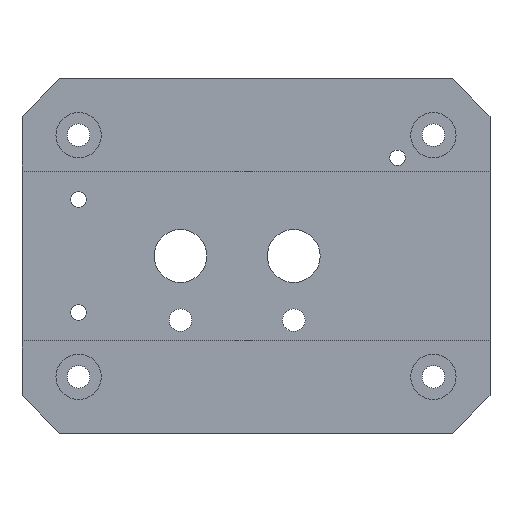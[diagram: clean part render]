
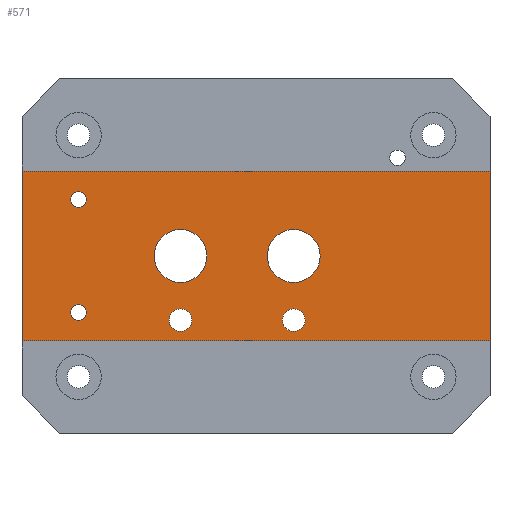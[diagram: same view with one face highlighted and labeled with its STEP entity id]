
A CAD part, front view. The second image highlights one B-rep face of the part: STEP entity #571.
In plain terms, the highlighted planar face has unit normal (0, -1, 0).
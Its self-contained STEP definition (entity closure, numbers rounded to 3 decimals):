
#16=LINE('',#897,#52);
#22=LINE('',#909,#58);
#23=LINE('',#911,#59);
#24=LINE('',#912,#60);
#52=VECTOR('',#751,124.);
#58=VECTOR('',#759,124.);
#59=VECTOR('',#762,45.);
#60=VECTOR('',#763,45.);
#93=PLANE('',#636);
#124=FACE_BOUND('',#220,.T.);
#125=FACE_BOUND('',#221,.T.);
#126=FACE_BOUND('',#222,.T.);
#127=FACE_BOUND('',#223,.T.);
#128=FACE_BOUND('',#224,.T.);
#129=FACE_BOUND('',#225,.T.);
#167=FACE_OUTER_BOUND('',#219,.T.);
#219=EDGE_LOOP('',(#449,#450,#451,#452));
#220=EDGE_LOOP('',(#453));
#221=EDGE_LOOP('',(#454));
#222=EDGE_LOOP('',(#455));
#223=EDGE_LOOP('',(#456));
#224=EDGE_LOOP('',(#457));
#225=EDGE_LOOP('',(#458));
#255=CIRCLE('',#589,7.);
#257=CIRCLE('',#592,7.);
#259=CIRCLE('',#595,3.);
#261=CIRCLE('',#598,3.);
#263=CIRCLE('',#601,2.067);
#265=CIRCLE('',#604,2.067);
#285=VERTEX_POINT('',#819);
#287=VERTEX_POINT('',#824);
#289=VERTEX_POINT('',#829);
#291=VERTEX_POINT('',#834);
#293=VERTEX_POINT('',#839);
#295=VERTEX_POINT('',#844);
#313=VERTEX_POINT('',#893);
#315=VERTEX_POINT('',#896);
#318=VERTEX_POINT('',#903);
#320=VERTEX_POINT('',#907);
#339=EDGE_CURVE('',#285,#285,#255,.T.);
#341=EDGE_CURVE('',#287,#287,#257,.T.);
#343=EDGE_CURVE('',#289,#289,#259,.T.);
#345=EDGE_CURVE('',#291,#291,#261,.T.);
#347=EDGE_CURVE('',#293,#293,#263,.T.);
#349=EDGE_CURVE('',#295,#295,#265,.T.);
#368=EDGE_CURVE('',#315,#313,#16,.T.);
#374=EDGE_CURVE('',#320,#318,#22,.T.);
#375=EDGE_CURVE('',#318,#313,#23,.T.);
#376=EDGE_CURVE('',#315,#320,#24,.T.);
#449=ORIENTED_EDGE('',*,*,#375,.F.);
#450=ORIENTED_EDGE('',*,*,#374,.F.);
#451=ORIENTED_EDGE('',*,*,#376,.F.);
#452=ORIENTED_EDGE('',*,*,#368,.T.);
#453=ORIENTED_EDGE('',*,*,#339,.T.);
#454=ORIENTED_EDGE('',*,*,#341,.T.);
#455=ORIENTED_EDGE('',*,*,#343,.T.);
#456=ORIENTED_EDGE('',*,*,#345,.T.);
#457=ORIENTED_EDGE('',*,*,#347,.T.);
#458=ORIENTED_EDGE('',*,*,#349,.T.);
#571=ADVANCED_FACE('',(#167,#124,#125,#126,#127,#128,#129),#93,.F.);
#589=AXIS2_PLACEMENT_3D('',#820,#658,#659);
#592=AXIS2_PLACEMENT_3D('',#825,#664,#665);
#595=AXIS2_PLACEMENT_3D('',#830,#670,#671);
#598=AXIS2_PLACEMENT_3D('',#835,#676,#677);
#601=AXIS2_PLACEMENT_3D('',#840,#682,#683);
#604=AXIS2_PLACEMENT_3D('',#845,#688,#689);
#636=AXIS2_PLACEMENT_3D('',#910,#760,#761);
#658=DIRECTION('center_axis',(0.,1.,0.));
#659=DIRECTION('ref_axis',(-1.,0.,0.));
#664=DIRECTION('center_axis',(0.,1.,0.));
#665=DIRECTION('ref_axis',(-1.,0.,0.));
#670=DIRECTION('center_axis',(0.,1.,0.));
#671=DIRECTION('ref_axis',(-1.,0.,0.));
#676=DIRECTION('center_axis',(0.,1.,0.));
#677=DIRECTION('ref_axis',(-1.,0.,0.));
#682=DIRECTION('center_axis',(0.,1.,0.));
#683=DIRECTION('ref_axis',(1.,0.,0.));
#688=DIRECTION('center_axis',(0.,1.,0.));
#689=DIRECTION('ref_axis',(1.,0.,0.));
#751=DIRECTION('',(1.,0.,0.));
#759=DIRECTION('',(1.,0.,0.));
#760=DIRECTION('center_axis',(0.,1.,0.));
#761=DIRECTION('ref_axis',(0.,0.,1.));
#762=DIRECTION('',(0.,0.,-1.));
#763=DIRECTION('',(0.,0.,1.));
#819=CARTESIAN_POINT('',(49.,5.,-47.));
#820=CARTESIAN_POINT('Origin',(42.,5.,-47.));
#824=CARTESIAN_POINT('',(79.,5.,-47.));
#825=CARTESIAN_POINT('Origin',(72.,5.,-47.));
#829=CARTESIAN_POINT('',(45.,5.,-64.));
#830=CARTESIAN_POINT('Origin',(42.,5.,-64.));
#834=CARTESIAN_POINT('',(75.,5.,-64.));
#835=CARTESIAN_POINT('Origin',(72.,5.,-64.));
#839=CARTESIAN_POINT('',(12.933,5.,-62.));
#840=CARTESIAN_POINT('Origin',(15.,5.,-62.));
#844=CARTESIAN_POINT('',(12.933,5.,-32.));
#845=CARTESIAN_POINT('Origin',(15.,5.,-32.));
#893=CARTESIAN_POINT('',(124.,5.,-69.5));
#896=CARTESIAN_POINT('',(0.,5.,-69.5));
#897=CARTESIAN_POINT('',(0.,5.,-69.5));
#903=CARTESIAN_POINT('',(124.,5.,-24.5));
#907=CARTESIAN_POINT('',(0.,5.,-24.5));
#909=CARTESIAN_POINT('',(0.,5.,-24.5));
#910=CARTESIAN_POINT('Origin',(0.,5.,-69.5));
#911=CARTESIAN_POINT('',(124.,5.,-34.75));
#912=CARTESIAN_POINT('',(0.,5.,-81.75));
